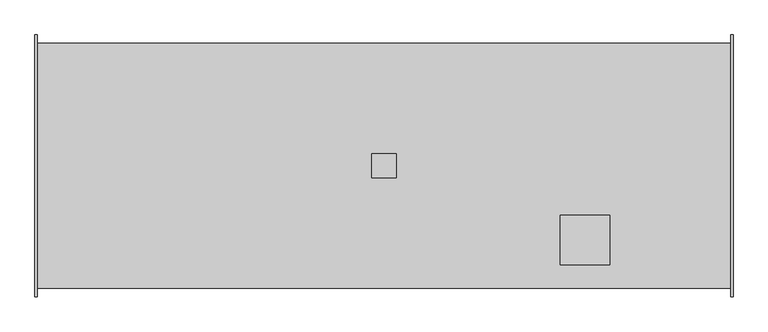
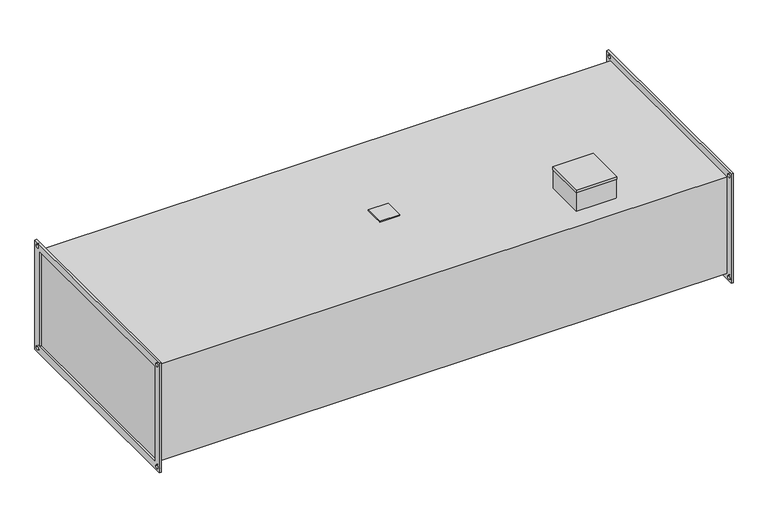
"""IFC4 building model written with IfcOpenShell, lengths in millimetres: damper geometry, KORF_Секция бактерицидной обработки воздуха_SBOW : SBOW 50-25/111."""

from ifc_helpers import new_model, si_unit, point, frame, frame_2d, origin, place, context, project, spatial, polyline, circle_curve, trimmed, segment, composite_curve, outline, extrude, faceted_brep, source, transform, mapped, element, save


def damper_fbb5e040(model_context):
    return source(origin(), model_context, "Body", "SolidModel", [
        extrude(outline(polyline([(695.0, -25.0), (695.0, 25.0), (745.0, 25.0), (745.0, -25.0), (695.0, -25.0)])), frame((0.0, 0.0, 128.0), z_axis=(0.0, 0.0, 1.0), x_axis=(1.0, 0.0, 0.0)), (0.0, 0.0, 1.0), 2.0),
        faceted_brep([(1186.0, -102.0, 185.0), (1084.0, -102.0, 185.0), (1084.0, -204.0, 185.0), (1186.0, -204.0, 185.0), (1186.0, -102.0, 178.0), (1186.0, -204.0, 178.0), (1084.0, -204.0, 178.0), (1084.0, -102.0, 178.0), (1185.0, -103.0, 178.0), (1085.0, -103.0, 178.0), (1085.0, -203.0, 178.0), (1185.0, -203.0, 178.0), (1185.0, -103.0, 128.0), (1185.0, -203.0, 128.0), (1085.0, -203.0, 128.0), (1085.0, -103.0, 128.0)], [[[0, 1, 2, 3]], [[4, 5, 6, 7], [8, 9, 10, 11]], [[1, 0, 4, 7]], [[2, 1, 7, 6]], [[3, 2, 6, 5]], [[0, 3, 5, 4]], [[12, 13, 14, 15]], [[12, 15, 9, 8]], [[15, 14, 10, 9]], [[14, 13, 11, 10]], [[13, 12, 8, 11]]]),
        extrude(outline(polyline([(-270.0, 145.0), (270.0, 145.0), (270.0, -145.0), (-270.0, -145.0), (-270.0, 145.0)]), holes=[polyline([(-250.0, 125.0), (-250.0, -125.0), (250.0, -125.0), (250.0, 125.0), (-250.0, 125.0)]), composite_curve([segment(trimmed(circle_curve(frame_2d((260.0, 135.0)), 4.5), [point((255.5, 135.0))], [point((264.5, 135.0))], True, "CARTESIAN"), True, "CONTINUOUS"), segment(trimmed(circle_curve(frame_2d((260.0, 135.0)), 4.5), [point((264.5, 135.0))], [point((255.5, 135.0))], True, "CARTESIAN"), True, "CONTINUOUS")], self_intersect=False), composite_curve([segment(trimmed(circle_curve(frame_2d((-260.0, 135.0)), 4.5), [point((-264.5, 135.0))], [point((-255.5, 135.0))], True, "CARTESIAN"), True, "CONTINUOUS"), segment(trimmed(circle_curve(frame_2d((-260.0, 135.0)), 4.5), [point((-255.5, 135.0))], [point((-264.5, 135.0))], True, "CARTESIAN"), True, "CONTINUOUS")], self_intersect=False), composite_curve([segment(trimmed(circle_curve(frame_2d((-260.0, -135.0)), 4.5), [point((-264.5, -135.0))], [point((-255.5, -135.0))], True, "CARTESIAN"), True, "CONTINUOUS"), segment(trimmed(circle_curve(frame_2d((-260.0, -135.0)), 4.5), [point((-255.5, -135.0))], [point((-264.5, -135.0))], True, "CARTESIAN"), True, "CONTINUOUS")], self_intersect=False), composite_curve([segment(trimmed(circle_curve(frame_2d((260.0, -135.0)), 4.5), [point((255.5, -135.0))], [point((264.5, -135.0))], True, "CARTESIAN"), True, "CONTINUOUS"), segment(trimmed(circle_curve(frame_2d((260.0, -135.0)), 4.5), [point((264.5, -135.0))], [point((255.5, -135.0))], True, "CARTESIAN"), True, "CONTINUOUS")], self_intersect=False)]), frame((1435.0, 0.0, 0.0), z_axis=(1.0, 0.0, 0.0), x_axis=(0.0, 1.0, 0.0)), (0.0, 0.0, 1.0), 5.0),
        extrude(outline(polyline([(-270.0, 145.0), (270.0, 145.0), (270.0, -145.0), (-270.0, -145.0), (-270.0, 145.0)]), holes=[polyline([(-250.0, 125.0), (-250.0, -125.0), (250.0, -125.0), (250.0, 125.0), (-250.0, 125.0)]), composite_curve([segment(trimmed(circle_curve(frame_2d((260.0, 135.0)), 4.5), [point((255.5, 135.0))], [point((264.5, 135.0))], True, "CARTESIAN"), True, "CONTINUOUS"), segment(trimmed(circle_curve(frame_2d((260.0, 135.0)), 4.5), [point((264.5, 135.0))], [point((255.5, 135.0))], True, "CARTESIAN"), True, "CONTINUOUS")], self_intersect=False), composite_curve([segment(trimmed(circle_curve(frame_2d((-260.0, 135.0)), 4.5), [point((-264.5, 135.0))], [point((-255.5, 135.0))], True, "CARTESIAN"), True, "CONTINUOUS"), segment(trimmed(circle_curve(frame_2d((-260.0, 135.0)), 4.5), [point((-255.5, 135.0))], [point((-264.5, 135.0))], True, "CARTESIAN"), True, "CONTINUOUS")], self_intersect=False), composite_curve([segment(trimmed(circle_curve(frame_2d((-260.0, -135.0)), 4.5), [point((-264.5, -135.0))], [point((-255.5, -135.0))], True, "CARTESIAN"), True, "CONTINUOUS"), segment(trimmed(circle_curve(frame_2d((-260.0, -135.0)), 4.5), [point((-255.5, -135.0))], [point((-264.5, -135.0))], True, "CARTESIAN"), True, "CONTINUOUS")], self_intersect=False), composite_curve([segment(trimmed(circle_curve(frame_2d((260.0, -135.0)), 4.5), [point((255.5, -135.0))], [point((264.5, -135.0))], True, "CARTESIAN"), True, "CONTINUOUS"), segment(trimmed(circle_curve(frame_2d((260.0, -135.0)), 4.5), [point((264.5, -135.0))], [point((255.5, -135.0))], True, "CARTESIAN"), True, "CONTINUOUS")], self_intersect=False)]), frame((0.0, 0.0, 0.0), z_axis=(1.0, 0.0, 0.0), x_axis=(0.0, 1.0, 0.0)), (0.0, 0.0, 1.0), 5.0),
        extrude(outline(polyline([(1435.0, 253.0), (1435.0, -253.0), (5.0, -253.0), (5.0, 253.0), (1435.0, 253.0)])), frame((0.0, 0.0, -128.0), z_axis=(0.0, 0.0, 1.0), x_axis=(1.0, 0.0, 0.0)), (0.0, 0.0, 1.0), 256.0),
    ])


if __name__ == "__main__":
    model = new_model("IFC4")
    model_context = context("Model", 3, world=origin())
    ifc_project = project(units=[si_unit("LENGTHUNIT", "METRE", prefix="MILLI")], contexts=[model_context])
    site = spatial("IfcSite", under=ifc_project)
    building = spatial("IfcBuilding", under=site)
    placement = place(None, origin())
    damper_shape = damper_fbb5e040(model_context)
    element("IfcDamper", 1, ObjectType="KORF_Секция бактерицидной обработки воздуха_SBOW : SBOW 50-25/111", at=placement, inside=building, context=model_context, shape_type="MappedRepresentation", body=[
        mapped(damper_shape, transform((0.0, 0.0, 0.0), x_axis=(1.0, 0.0, 0.0), y_axis=(0.0, 1.0, 0.0), z_axis=(0.0, 0.0, 1.0))),
    ])
    save(model, "model.ifc")
